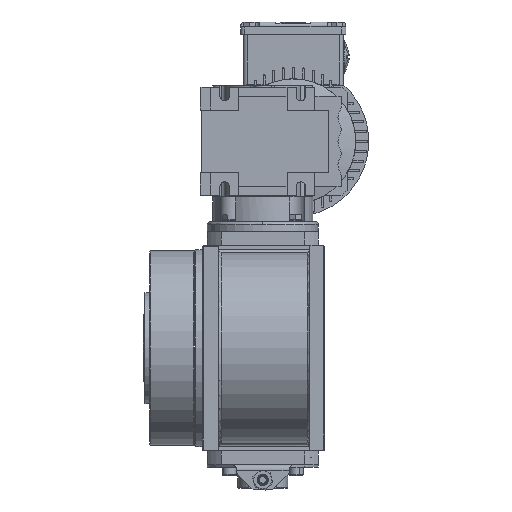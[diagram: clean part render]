
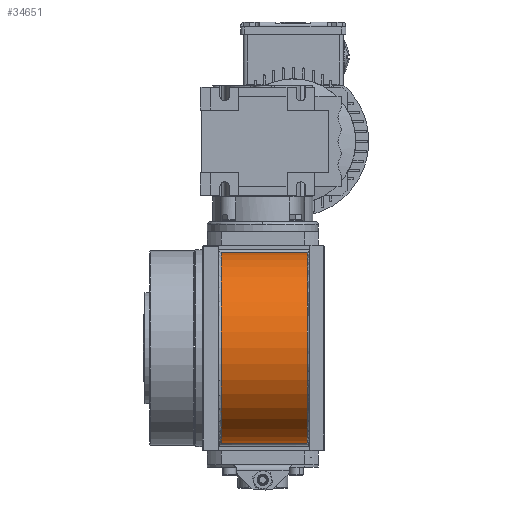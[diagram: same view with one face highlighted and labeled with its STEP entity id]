
A CAD part, left-side view. The second image highlights one B-rep face of the part: STEP entity #34651.
In plain terms, the highlighted cylindrical face has radius 69 mm (diameter 138 mm), a partial arc.
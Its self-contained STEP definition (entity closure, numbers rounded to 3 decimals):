
#1130 = DIRECTION ( 'NONE',  ( 0., 1., 0. ) ) ;
#2311 = EDGE_CURVE ( 'NONE', #61999, #8456, #39641, .T. ) ;
#4432 = ORIENTED_EDGE ( 'NONE', *, *, #19846, .T. ) ;
#4714 = ORIENTED_EDGE ( 'NONE', *, *, #28525, .T. ) ;
#8456 = VERTEX_POINT ( 'NONE', #49528 ) ;
#11018 = AXIS2_PLACEMENT_3D ( 'NONE', #13086, #36087, #59213 ) ;
#13086 = CARTESIAN_POINT ( 'NONE',  ( -38.624, 8.762, 40.609 ) ) ;
#14389 = VECTOR ( 'NONE', #1130, 1000. ) ;
#14560 = CARTESIAN_POINT ( 'NONE',  ( -42.511, 8.762, -28.281 ) ) ;
#15816 = AXIS2_PLACEMENT_3D ( 'NONE', #42248, #36518, #47959 ) ;
#15896 = CARTESIAN_POINT ( 'NONE',  ( -42.511, -53.238, -28.281 ) ) ;
#19846 = EDGE_CURVE ( 'NONE', #56573, #49626, #26412, .T. ) ;
#20136 = VECTOR ( 'NONE', #21848, 1000. ) ;
#21761 = DIRECTION ( 'NONE',  ( 0., 1., 0. ) ) ;
#21848 = DIRECTION ( 'NONE',  ( 0., -1., 0. ) ) ;
#26412 = LINE ( 'NONE', #44255, #20136 ) ;
#28525 = EDGE_CURVE ( 'NONE', #8456, #56573, #71248, .T. ) ;
#31117 = CIRCLE ( 'NONE', #33542, 69. ) ;
#31573 = CARTESIAN_POINT ( 'NONE',  ( -42.511, -53.238, 109.5 ) ) ;
#33542 = AXIS2_PLACEMENT_3D ( 'NONE', #67509, #21761, #72816 ) ;
#34651 = ADVANCED_FACE ( 'NONE', ( #48352 ), #60802, .T. ) ;
#36087 = DIRECTION ( 'NONE',  ( 0., -1., 0. ) ) ;
#36518 = DIRECTION ( 'NONE',  ( 0., -1., 0. ) ) ;
#39641 = LINE ( 'NONE', #47264, #14389 ) ;
#42248 = CARTESIAN_POINT ( 'NONE',  ( -38.624, 10.762, 40.609 ) ) ;
#43042 = EDGE_CURVE ( 'NONE', #49626, #61999, #31117, .T. ) ;
#44255 = CARTESIAN_POINT ( 'NONE',  ( -42.511, 10.762, -28.281 ) ) ;
#47264 = CARTESIAN_POINT ( 'NONE',  ( -42.511, 10.762, 109.5 ) ) ;
#47959 = DIRECTION ( 'NONE',  ( 0., 0., -1. ) ) ;
#48352 = FACE_OUTER_BOUND ( 'NONE', #73916, .T. ) ;
#49528 = CARTESIAN_POINT ( 'NONE',  ( -42.511, 8.762, 109.5 ) ) ;
#49626 = VERTEX_POINT ( 'NONE', #15896 ) ;
#56573 = VERTEX_POINT ( 'NONE', #14560 ) ;
#59213 = DIRECTION ( 'NONE',  ( 0., 0., 1. ) ) ;
#60802 = CYLINDRICAL_SURFACE ( 'NONE', #15816, 69. ) ;
#61999 = VERTEX_POINT ( 'NONE', #31573 ) ;
#63130 = ORIENTED_EDGE ( 'NONE', *, *, #43042, .T. ) ;
#67509 = CARTESIAN_POINT ( 'NONE',  ( -38.624, -53.238, 40.609 ) ) ;
#70344 = ORIENTED_EDGE ( 'NONE', *, *, #2311, .T. ) ;
#71248 = CIRCLE ( 'NONE', #11018, 69. ) ;
#72816 = DIRECTION ( 'NONE',  ( 0., 0., 1. ) ) ;
#73916 = EDGE_LOOP ( 'NONE', ( #63130, #70344, #4714, #4432 ) ) ;
